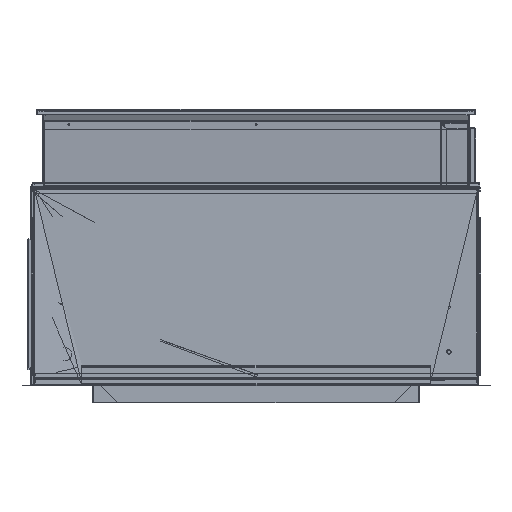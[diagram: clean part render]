
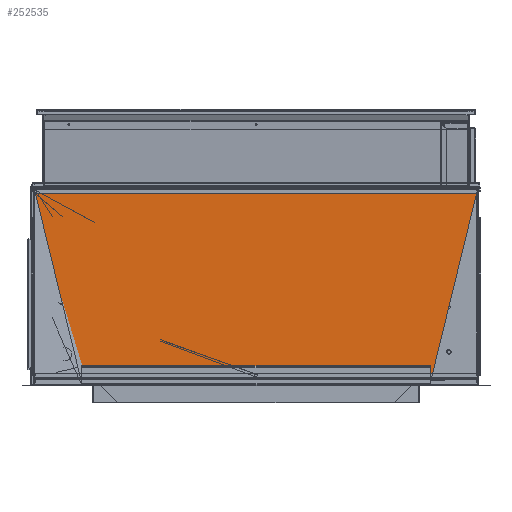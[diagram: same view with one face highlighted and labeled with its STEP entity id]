
A CAD part, front view. The second image highlights one B-rep face of the part: STEP entity #252535.
In plain terms, the highlighted planar face has unit normal (0, 0, -1) by its records, which use the part's own axes.
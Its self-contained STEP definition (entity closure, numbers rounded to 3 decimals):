
#14816 = VECTOR ( 'NONE', #99670, 39.37 ) ;
#43273 = CARTESIAN_POINT ( 'NONE',  ( 10.031, -0.789, -24.396 ) ) ;
#50899 = VERTEX_POINT ( 'NONE', #43273 ) ;
#53711 = LINE ( 'NONE', #57386, #319478 ) ;
#57386 = CARTESIAN_POINT ( 'NONE',  ( 43.75, -0.729, -8.126 ) ) ;
#64018 = AXIS2_PLACEMENT_3D ( 'NONE', #122254, #160281, #424297 ) ;
#70706 = ORIENTED_EDGE ( 'NONE', *, *, #145066, .F. ) ;
#83827 = CARTESIAN_POINT ( 'NONE',  ( 43.75, -0.729, -8.126 ) ) ;
#95289 = DIRECTION ( 'NONE',  ( 0., 1., 0. ) ) ;
#99670 = DIRECTION ( 'NONE',  ( 1., 0., 0. ) ) ;
#118224 = LINE ( 'NONE', #403818, #195067 ) ;
#122254 = CARTESIAN_POINT ( 'NONE',  ( 43.75, -0.729, -8.126 ) ) ;
#127077 = LINE ( 'NONE', #212082, #14816 ) ;
#145066 = EDGE_CURVE ( 'NONE', #231283, #390609, #53711, .T. ) ;
#160281 = DIRECTION ( 'NONE',  ( 0., 0., 1. ) ) ;
#171004 = VERTEX_POINT ( 'NONE', #266992 ) ;
#182891 = CARTESIAN_POINT ( 'NONE',  ( -4.844, -0.789, -24.396 ) ) ;
#195067 = VECTOR ( 'NONE', #250511, 39.37 ) ;
#212082 = CARTESIAN_POINT ( 'NONE',  ( 43.75, -0.789, -8.126 ) ) ;
#217345 = CARTESIAN_POINT ( 'NONE',  ( 6.063, -0.729, -8.126 ) ) ;
#220888 = DIRECTION ( 'NONE',  ( -1., 0., 0. ) ) ;
#229980 = EDGE_CURVE ( 'NONE', #291097, #231283, #127077, .T. ) ;
#231283 = VERTEX_POINT ( 'NONE', #394144 ) ;
#250511 = DIRECTION ( 'NONE',  ( 0., -1., 0. ) ) ;
#251648 = EDGE_CURVE ( 'NONE', #451872, #291097, #118224, .T. ) ;
#252535 = ADVANCED_FACE ( 'NONE', ( #329678 ), #346786, .F. ) ;
#266992 = CARTESIAN_POINT ( 'NONE',  ( 39.781, -0.789, -24.396 ) ) ;
#274673 = ORIENTED_EDGE ( 'NONE', *, *, #251648, .F. ) ;
#291097 = VERTEX_POINT ( 'NONE', #409243 ) ;
#311699 = VECTOR ( 'NONE', #220888, 39.37 ) ;
#319478 = VECTOR ( 'NONE', #95289, 39.37 ) ;
#329678 = FACE_OUTER_BOUND ( 'NONE', #331499, .T. ) ;
#331499 = EDGE_LOOP ( 'NONE', ( #274673, #351910, #70706, #342428 ) ) ;
#342428 = ORIENTED_EDGE ( 'NONE', *, *, #229980, .F. ) ;
#346786 = PLANE ( 'NONE',  #64018 ) ;
#351910 = ORIENTED_EDGE ( 'NONE', *, *, #376514, .F. ) ;
#376514 = ORIENTED_EDGE ( 'NONE', *, *, #434199, .F. ) ;
#390609 = VERTEX_POINT ( 'NONE', #83827 ) ;
#394144 = CARTESIAN_POINT ( 'NONE',  ( 43.75, -0.789, -8.126 ) ) ;
#403818 = CARTESIAN_POINT ( 'NONE',  ( 6.063, -0.729, -8.126 ) ) ;
#409243 = CARTESIAN_POINT ( 'NONE',  ( 6.063, -0.789, -8.126 ) ) ;
#412099 = LINE ( 'NONE', #182891, #311699 ) ;
#424297 = DIRECTION ( 'NONE',  ( 0., -1., 0. ) ) ;
#434199 = EDGE_CURVE ( 'NONE', #171004, #50899, #412099, .T. ) ;
#451872 = VERTEX_POINT ( 'NONE', #217345 ) ;
